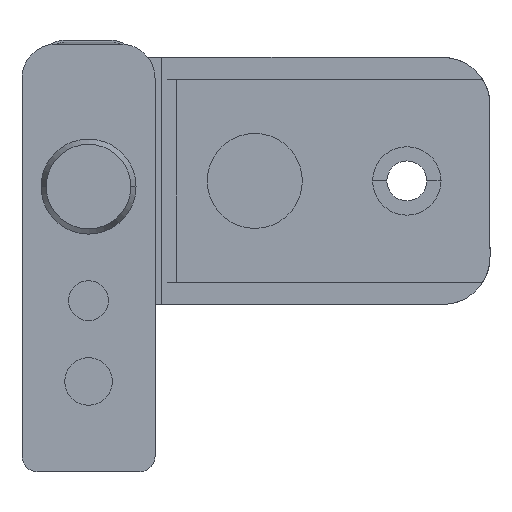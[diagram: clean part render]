
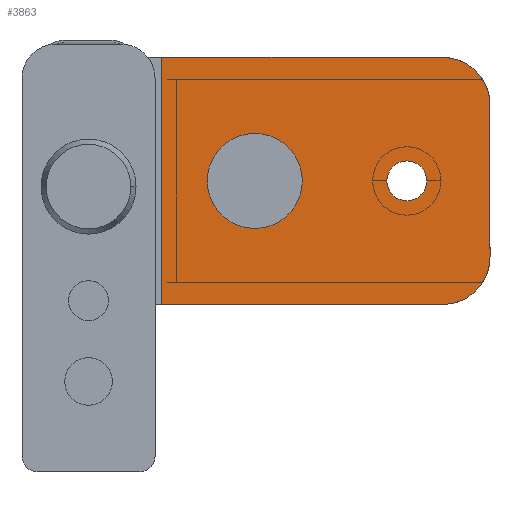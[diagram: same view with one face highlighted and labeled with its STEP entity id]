
A CAD part, front view. The second image highlights one B-rep face of the part: STEP entity #3863.
In plain terms, the highlighted planar face has unit normal (0, -1, 0).
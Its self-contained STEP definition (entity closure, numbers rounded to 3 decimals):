
#44 = VERTEX_POINT ( 'NONE', #1862 ) ;
#367 = CARTESIAN_POINT ( 'NONE',  ( 31.4, 647., 0.6 ) ) ;
#369 = CARTESIAN_POINT ( 'NONE',  ( 35.6, 647., 0.6 ) ) ;
#660 = CARTESIAN_POINT ( 'NONE',  ( 42.25, 647., 13.6 ) ) ;
#661 = DIRECTION ( 'NONE',  ( 0., 0., -1. ) ) ;
#720 = CIRCLE ( 'NONE', #2989, 5. ) ;
#729 = LINE ( 'NONE', #3676, #730 ) ;
#730 = VECTOR ( 'NONE', #3677, 1000. ) ;
#735 = CIRCLE ( 'NONE', #2991, 2.1 ) ;
#736 = LINE ( 'NONE', #3688, #738 ) ;
#737 = CIRCLE ( 'NONE', #2992, 5. ) ;
#738 = VECTOR ( 'NONE', #3689, 1000. ) ;
#739 = LINE ( 'NONE', #3690, #740 ) ;
#740 = VECTOR ( 'NONE', #2088, 1000. ) ;
#855 = CIRCLE ( 'NONE', #3003, 2.1 ) ;
#875 = FACE_BOUND ( 'NONE', #3822, .T. ) ;
#876 = FACE_OUTER_BOUND ( 'NONE', #3821, .T. ) ;
#1133 = LINE ( 'NONE', #660, #1134 ) ;
#1134 = VECTOR ( 'NONE', #661, 1000. ) ;
#1385 = CARTESIAN_POINT ( 'NONE',  ( 37.25, 647., -12.4 ) ) ;
#1809 = CARTESIAN_POINT ( 'NONE',  ( 42.25, 647., 8.6 ) ) ;
#1862 = CARTESIAN_POINT ( 'NONE',  ( 42.25, 647., -7.4 ) ) ;
#2077 = VERTEX_POINT ( 'NONE', #1385 ) ;
#2078 = VERTEX_POINT ( 'NONE', #3621 ) ;
#2081 = VERTEX_POINT ( 'NONE', #3624 ) ;
#2087 = VERTEX_POINT ( 'NONE', #3630 ) ;
#2088 = DIRECTION ( 'NONE',  ( -1., 0., 0. ) ) ;
#2575 = EDGE_CURVE ( 'NONE', #44, #2077, #720, .T. ) ;
#2581 = EDGE_CURVE ( 'NONE', #2087, #2078, #729, .T. ) ;
#2584 = EDGE_CURVE ( 'NONE', #2842, #2844, #735, .T. ) ;
#2585 = EDGE_CURVE ( 'NONE', #2087, #2926, #737, .T. ) ;
#2586 = EDGE_CURVE ( 'NONE', #2078, #2081, #736, .T. ) ;
#2587 = EDGE_CURVE ( 'NONE', #2077, #2081, #739, .T. ) ;
#2842 = VERTEX_POINT ( 'NONE', #367 ) ;
#2844 = VERTEX_POINT ( 'NONE', #369 ) ;
#2926 = VERTEX_POINT ( 'NONE', #1809 ) ;
#2945 = EDGE_CURVE ( 'NONE', #2844, #2842, #855, .T. ) ;
#2989 = AXIS2_PLACEMENT_3D ( 'NONE', #3662, #3663, #3664 ) ;
#2991 = AXIS2_PLACEMENT_3D ( 'NONE', #3682, #3683, #3684 ) ;
#2992 = AXIS2_PLACEMENT_3D ( 'NONE', #3685, #3686, #3687 ) ;
#3003 = AXIS2_PLACEMENT_3D ( 'NONE', #3498, #3499, #3500 ) ;
#3009 = AXIS2_PLACEMENT_3D ( 'NONE', #3374, #3375, #3376 ) ;
#3373 = PLANE ( 'NONE',  #3009 ) ;
#3374 = CARTESIAN_POINT ( 'NONE',  ( 42.25, 647., 13.6 ) ) ;
#3375 = DIRECTION ( 'NONE',  ( 0., 1., 0. ) ) ;
#3376 = DIRECTION ( 'NONE',  ( 1., 0., 0. ) ) ;
#3498 = CARTESIAN_POINT ( 'NONE',  ( 33.5, 647., 0.6 ) ) ;
#3499 = DIRECTION ( 'NONE',  ( 0., -1., 0. ) ) ;
#3500 = DIRECTION ( 'NONE',  ( 1., 0., 0. ) ) ;
#3621 = CARTESIAN_POINT ( 'NONE',  ( 7.7, 647., 13.6 ) ) ;
#3624 = CARTESIAN_POINT ( 'NONE',  ( 7.7, 647., -12.4 ) ) ;
#3630 = CARTESIAN_POINT ( 'NONE',  ( 37.25, 647., 13.6 ) ) ;
#3662 = CARTESIAN_POINT ( 'NONE',  ( 37.25, 647., -7.4 ) ) ;
#3663 = DIRECTION ( 'NONE',  ( 0., 1., 0. ) ) ;
#3664 = DIRECTION ( 'NONE',  ( 1., 0., 0. ) ) ;
#3676 = CARTESIAN_POINT ( 'NONE',  ( 42.25, 647., 13.6 ) ) ;
#3677 = DIRECTION ( 'NONE',  ( -1., 0., 0. ) ) ;
#3682 = CARTESIAN_POINT ( 'NONE',  ( 33.5, 647., 0.6 ) ) ;
#3683 = DIRECTION ( 'NONE',  ( 0., -1., 0. ) ) ;
#3684 = DIRECTION ( 'NONE',  ( 1., 0., 0. ) ) ;
#3685 = CARTESIAN_POINT ( 'NONE',  ( 37.25, 647., 8.6 ) ) ;
#3686 = DIRECTION ( 'NONE',  ( 0., 1., 0. ) ) ;
#3687 = DIRECTION ( 'NONE',  ( 1., 0., 0. ) ) ;
#3688 = CARTESIAN_POINT ( 'NONE',  ( 7.7, 647., 13.6 ) ) ;
#3689 = DIRECTION ( 'NONE',  ( 0., 0., -1. ) ) ;
#3690 = CARTESIAN_POINT ( 'NONE',  ( 42.25, 647., -12.4 ) ) ;
#3821 = EDGE_LOOP ( 'NONE', ( #4249, #4248, #4247, #4246, #4245, #4244 ) ) ;
#3822 = EDGE_LOOP ( 'NONE', ( #4251, #4250 ) ) ;
#3863 = ADVANCED_FACE ( 'NONE', ( #875, #876 ), #3373, .F. ) ;
#4244 = ORIENTED_EDGE ( 'NONE', *, *, #2575, .F. ) ;
#4245 = ORIENTED_EDGE ( 'NONE', *, *, #2587, .F. ) ;
#4246 = ORIENTED_EDGE ( 'NONE', *, *, #2586, .T. ) ;
#4247 = ORIENTED_EDGE ( 'NONE', *, *, #2581, .T. ) ;
#4248 = ORIENTED_EDGE ( 'NONE', *, *, #2585, .F. ) ;
#4249 = ORIENTED_EDGE ( 'NONE', *, *, #4514, .F. ) ;
#4250 = ORIENTED_EDGE ( 'NONE', *, *, #2584, .F. ) ;
#4251 = ORIENTED_EDGE ( 'NONE', *, *, #2945, .F. ) ;
#4514 = EDGE_CURVE ( 'NONE', #2926, #44, #1133, .T. ) ;
